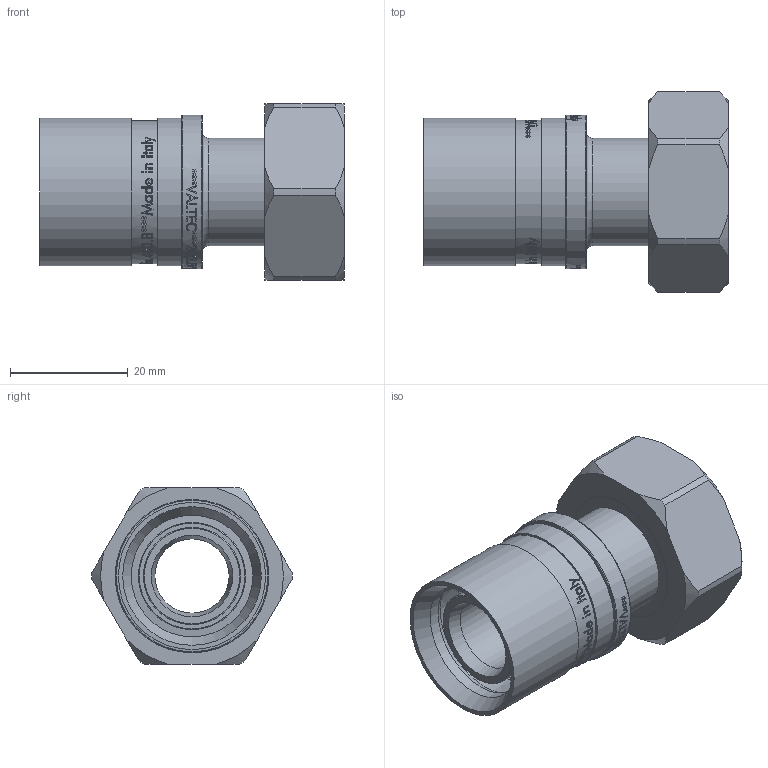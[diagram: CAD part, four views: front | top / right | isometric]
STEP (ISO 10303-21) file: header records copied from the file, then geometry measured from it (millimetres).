
FILE_DESCRIPTION(/* description */ (''),/* implementation_level */ '2;1');
FILE_NAME(/* name */ 'F:\Артём\00000\Работа удаленка\Аксеальные фитинги\VTm.422.BG.002005.stp',/* time_stamp */ '2021-01-26T11:23:32+03:00',/* author */ ('almis'),/* organization */ (''),/* preprocessor_version */ 'ST-DEVELOPER v18',/* originating_system */ 'Autodesk Inventor 2020',/* authorisation */ '');
FILE_SCHEMA (('AUTOMOTIVE_DESIGN { 1 0 10303 214 3 1 1 }'));
Products named in the file (1): VTm.403.BG.001616
Bounding box: 51.71 x 34 x 30 mm (x, y, z)
Volume: 14716.4 mm3; surface area: 13529.2 mm2
Topology: 2 solids, 2 shells, 1319 faces, 3621 edges, 2435 vertices
Faces by surface type: bspline 704, plane 409, cylinder 156, cone 25, torus 25
Full cylindrical faces by diameter (mm): 12.6 x1, 15.5 x1, 15.7 x5, 16.5 x4, 17.5 x2, 18.2 x1, 18.3 x1, 20.65 x2, 21.2 x1, 22.4 x1, 22.42 x1, 24.1 x5, 24.3 x1, 25 x2, 26 x1, 27.7 x6
Entity records: 56449 total; most frequent: CARTESIAN_POINT 27158, ORIENTED_EDGE 7242, DIRECTION 4030, EDGE_CURVE 3621, VERTEX_POINT 2435, LINE 1522, VECTOR 1522, EDGE_LOOP 1452
